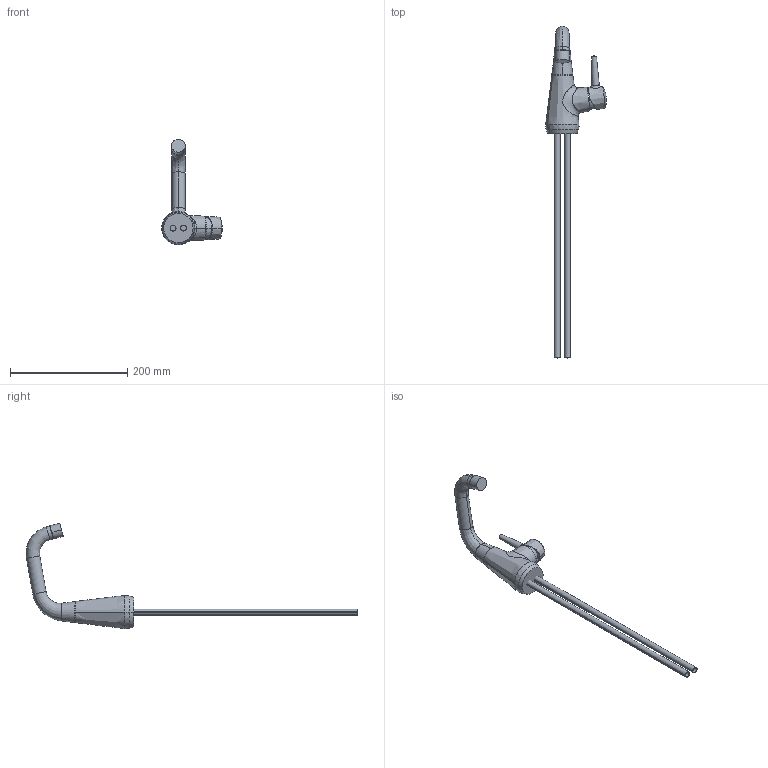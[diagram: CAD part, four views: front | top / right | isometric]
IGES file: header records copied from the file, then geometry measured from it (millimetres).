
Start section:  PTC IGES file: 90857_web.igs
Global section: file name: 90857_web.igs; native system: Creo Parametric by PTC Inc.; preprocessor: 2017380; author: jaj; organization: Unknown; date: 20180703.132350; units: millimetre
Bounding box: 103.65 x 566.06 x 179.92 mm (x, y, z)
Surface area: 97514.3 mm2 (no closed solid volume)
Topology: 0 solids, 0 shells, 51 faces, 324 edges, 376 vertices
Faces by surface type: revolution 36, bspline 15
